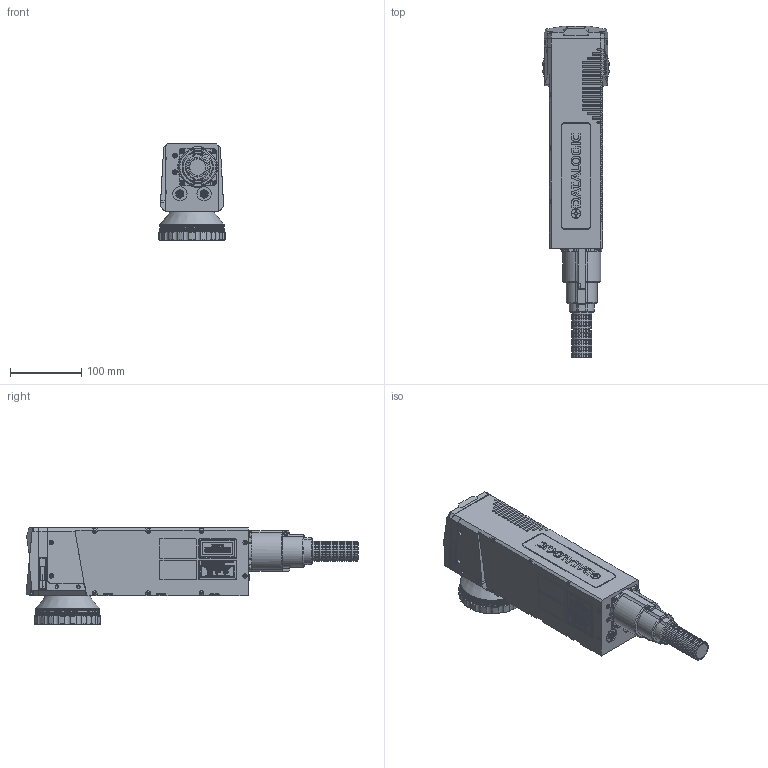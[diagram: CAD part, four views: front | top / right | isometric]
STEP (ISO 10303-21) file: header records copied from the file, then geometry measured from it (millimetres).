
FILE_DESCRIPTION(/* description */ (''),/* implementation_level */ '2;1');
FILE_NAME(/* name */ 'DSD-1188_STEP-20250327.stp',/* time_stamp */ '2025-03-27T16:09:30+01:00',/* author */ (''),/* organization */ (''),/* preprocessor_version */ 'ST-DEVELOPER v16.701',/* originating_system */ 'SIEMENS PLM Software NX 1946',/* authorisation */ '');
FILE_SCHEMA (('AUTOMOTIVE_DESIGN { 1 0 10303 214 3 1 1 1 }'));
Products named in the file (1): lbov7E344AAFsfok
Bounding box: 93.68 x 466.74 x 135.92 mm (x, y, z)
Volume: 2660152.6 mm3; surface area: 204960.6 mm2
Topology: 2 solids, 4 shells, 5566 faces, 15892 edges, 11029 vertices
Faces by surface type: plane 3750, extrusion 922, cylinder 631, cone 171, torus 62, bspline 28, sphere 2
Full cylindrical faces by diameter (mm): 1.05 x9, 1.6 x5, 3 x6, 3.3 x8, 4.2 x15, 5 x9, 5.5 x6, 5.65 x1, 5.7 x20, 6.2 x4, 6.5 x2, 7 x4, 7.1 x2, 8.1 x4, 8.9 x2, 19.6 x1, 20 x3, 22.8 x13, 28.3 x13, 58.5 x1, 60 x1, 62 x1, 63 x1, 75.2 x1
Entity records: 236853 total; most frequent: CARTESIAN_POINT 71607, ORIENTED_EDGE 30892, DIRECTION 22722, EDGE_CURVE 15446, VERTEX_POINT 10930, VECTOR 8888, LINE 7966, AXIS2_PLACEMENT_3D 6917
